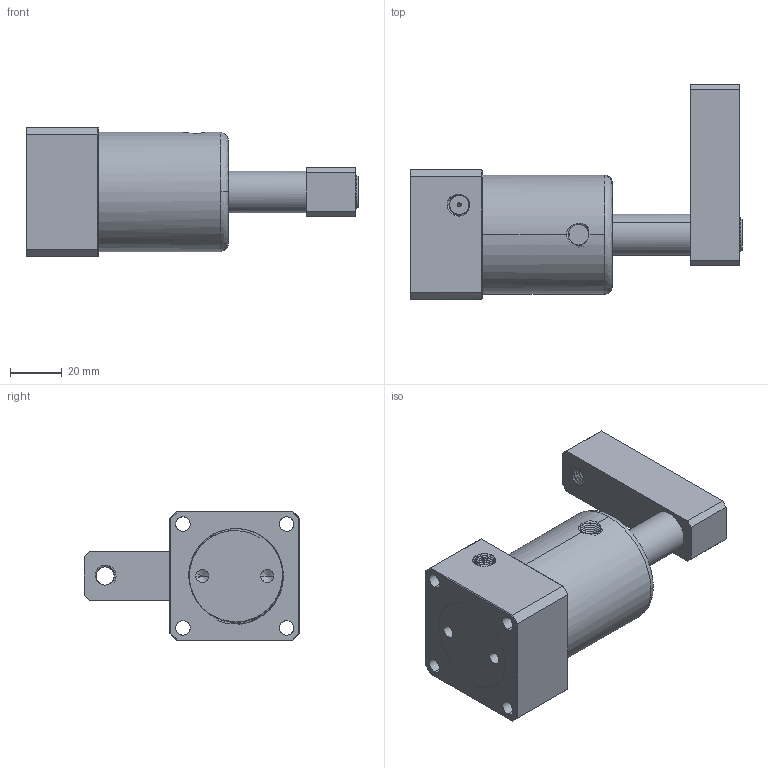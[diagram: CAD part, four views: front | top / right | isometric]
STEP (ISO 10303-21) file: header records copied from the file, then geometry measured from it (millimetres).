
FILE_DESCRIPTION (( 'STEP AP214' ), '1' );
FILE_NAME ('asc-32S.STEP', '2013-08-12T01:44:45', ( '微软用户' ), ( '微软中国' ), 'SwSTEP 2.0', 'SolidWorks 2011', '' );
FILE_SCHEMA (( 'AUTOMOTIVE_DESIGN' ));
Length unit declared in the file: millimetre
Products named in the file (6): M8LC; asc-32syb; asc-32shsg; ASC-32HG; ASC-32BT; asc-32S
Assembly tree (5 placements, depth 2):
  asc-32S
    asc-32syb
    asc-32shsg
    ASC-32HG
    M8LC
    ASC-32BT
Bounding box: 128 x 83 x 50 mm (x, y, z)
Volume: 153816.4 mm3; surface area: 49172.5 mm2
Topology: 5 solids, 5 shells, 416 faces, 1357 edges, 963 vertices
Faces by surface type: cylinder 223, bspline 84, plane 66, cone 43
Entity records: 53357 total; most frequent: CARTESIAN_POINT 43059, ORIENTED_EDGE 2698, EDGE_CURVE 1349, DIRECTION 1235, VERTEX_POINT 963, B_SPLINE_CURVE_WITH_KNOTS 875, EDGE_LOOP 454, AXIS2_PLACEMENT_3D 451
